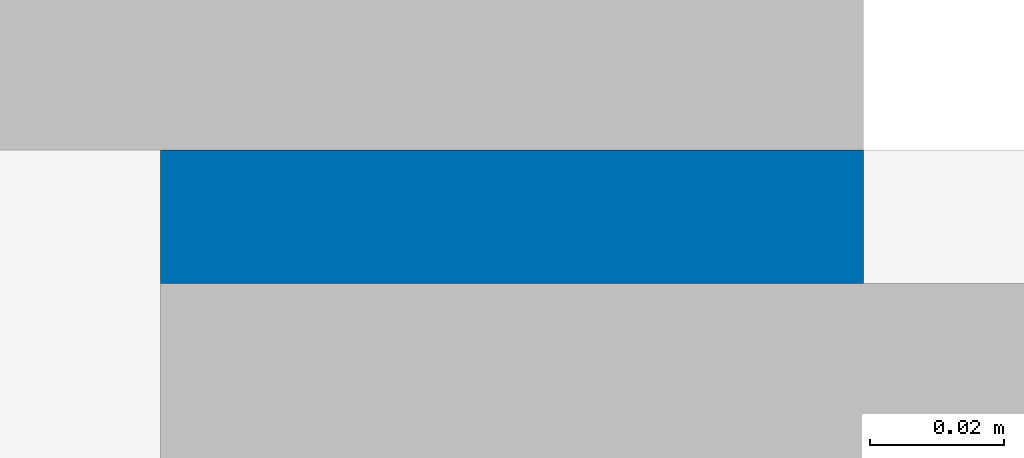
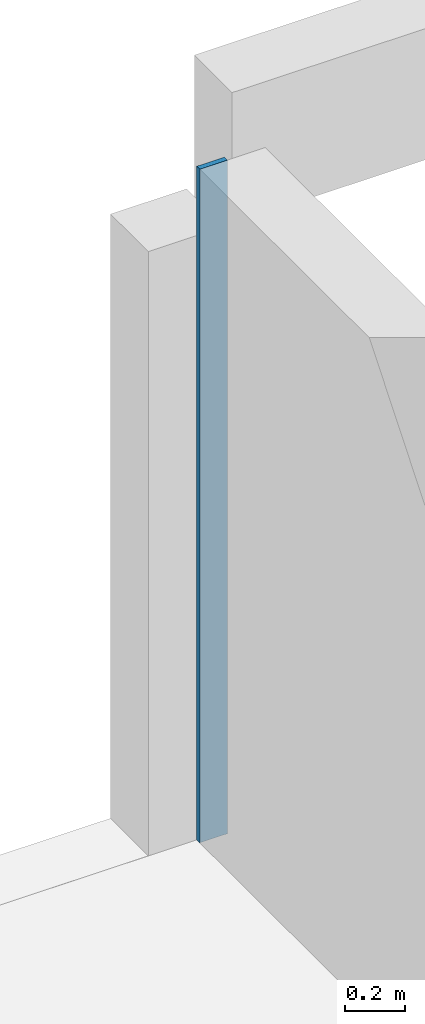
# One storey, part 8 of 12: 1 wall.
"""IFC2X3 building model written with IfcOpenShell, lengths in millimetres."""

from ifc_helpers import new_model, entity, si_unit, converted_unit, derived_unit, direction, frame, frame_2d, origin, place, context, subcontext, project, spatial, rectangle, extrude, material, layer, layer_set, layer_usage, type_object, element, save


model = new_model("IFC2X3")

# Units and contexts
model_context = context("Model", 3, precision=0.01, world=origin(), true_north=direction((6.12303176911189e-17, 1.0)))
body_context = subcontext(model_context, "Body", "Model", "MODEL_VIEW")
ifc_project = project(units=[si_unit("LENGTHUNIT", "METRE", prefix="MILLI"), si_unit("AREAUNIT", "SQUARE_METRE"), si_unit("VOLUMEUNIT", "CUBIC_METRE"), converted_unit("PLANEANGLEUNIT", "DEGREE", entity("IfcRatioMeasure", 0.0174532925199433), si_unit("PLANEANGLEUNIT", "RADIAN"), dimensions=[0, 0, 0, 0, 0, 0, 0]), si_unit("MASSUNIT", "GRAM", prefix="KILO"), derived_unit("MASSDENSITYUNIT", [(si_unit("MASSUNIT", "GRAM", prefix="KILO"), 1), (si_unit("LENGTHUNIT", "METRE"), -3)]), si_unit("TIMEUNIT", "SECOND"), si_unit("FREQUENCYUNIT", "HERTZ"), si_unit("THERMODYNAMICTEMPERATUREUNIT", "DEGREE_CELSIUS"), derived_unit("THERMALTRANSMITTANCEUNIT", [(si_unit("MASSUNIT", "GRAM", prefix="KILO"), 1), (si_unit("THERMODYNAMICTEMPERATUREUNIT", "KELVIN"), -1), (si_unit("TIMEUNIT", "SECOND"), -3)]), derived_unit("VOLUMETRICFLOWRATEUNIT", [(si_unit("LENGTHUNIT", "METRE"), 3), (si_unit("TIMEUNIT", "SECOND"), -1)]), si_unit("ELECTRICCURRENTUNIT", "AMPERE"), si_unit("ELECTRICVOLTAGEUNIT", "VOLT"), si_unit("POWERUNIT", "WATT"), si_unit("FORCEUNIT", "NEWTON", prefix="KILO"), si_unit("ILLUMINANCEUNIT", "LUX"), si_unit("LUMINOUSFLUXUNIT", "LUMEN"), si_unit("LUMINOUSINTENSITYUNIT", "CANDELA"), derived_unit("USERDEFINED", [(si_unit("MASSUNIT", "GRAM", prefix="KILO"), -1), (si_unit("LENGTHUNIT", "METRE"), -2), (si_unit("TIMEUNIT", "SECOND"), 3), (si_unit("LUMINOUSFLUXUNIT", "LUMEN"), 1)]), derived_unit("LINEARVELOCITYUNIT", [(si_unit("LENGTHUNIT", "METRE"), 1), (si_unit("TIMEUNIT", "SECOND"), -1)]), si_unit("PRESSUREUNIT", "PASCAL"), derived_unit("USERDEFINED", [(si_unit("LENGTHUNIT", "METRE"), -2), (si_unit("MASSUNIT", "GRAM", prefix="KILO"), 1), (si_unit("TIMEUNIT", "SECOND"), -2)])], contexts=[model_context])

# Site, building, storey
site_placement = place(None, origin())
site = spatial("IfcSite", under=ifc_project, at=site_placement, Name="Default", CompositionType="ELEMENT")
building_placement = place(site_placement, origin())
building = spatial("IfcBuilding", under=site, at=building_placement, Name="niet gebruiken", CompositionType="ELEMENT")
storey_placement = place(building_placement, frame((0.0, 0.0, 6660.0)))
storey = spatial("IfcBuildingStorey", under=building, at=storey_placement, Name="02 tweede verdieping", CompositionType="ELEMENT", Elevation=6660.00000000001)

# Wall
ifc_material = material(Name="NLRS_f2_beton ihwg")
ifc_layer = layer(ifc_material, 105.0)
ifc_layer_set = layer_set([ifc_layer], Name="Basic Wall:NLRS_22.21_WA_beton ihwg d=105_gen")
ifc_layer_usage = layer_usage(ifc_layer_set, "AXIS2", "NEGATIVE", 52.5)
wall_type = type_object("IfcWallType", Name="Basic Wall:NLRS_22.21_WA_beton ihwg d=105_gen", PredefinedType="STANDARD", material=ifc_layer_set)
wall_placement = place(storey_placement, frame((107927.499999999, 52986.0, -90.0), z_axis=(0.0, 0.0, 1.0), x_axis=(0.0, 1.0, 0.0)))
element("IfcWallStandardCase", 1, at=wall_placement, inside=storey, type_object=wall_type, material=ifc_layer_usage, Name="Basic Wall:NLRS_22.21_WA_beton ihwg d=105_gen", ObjectType="Basic Wall:NLRS_22.21_WA_beton ihwg d=105_gen", context=body_context, shape_type="SweptSolid", body=[
    extrude(rectangle(XDim=20.0000000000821, YDim=104.999999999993, at=frame_2d((10.000000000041, 1.77635683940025e-14), x_axis=(-1.0, 0.0))), origin(), (0.0, 0.0, 1.0), 2720.00000000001),
])

save(model, "model.ifc")
